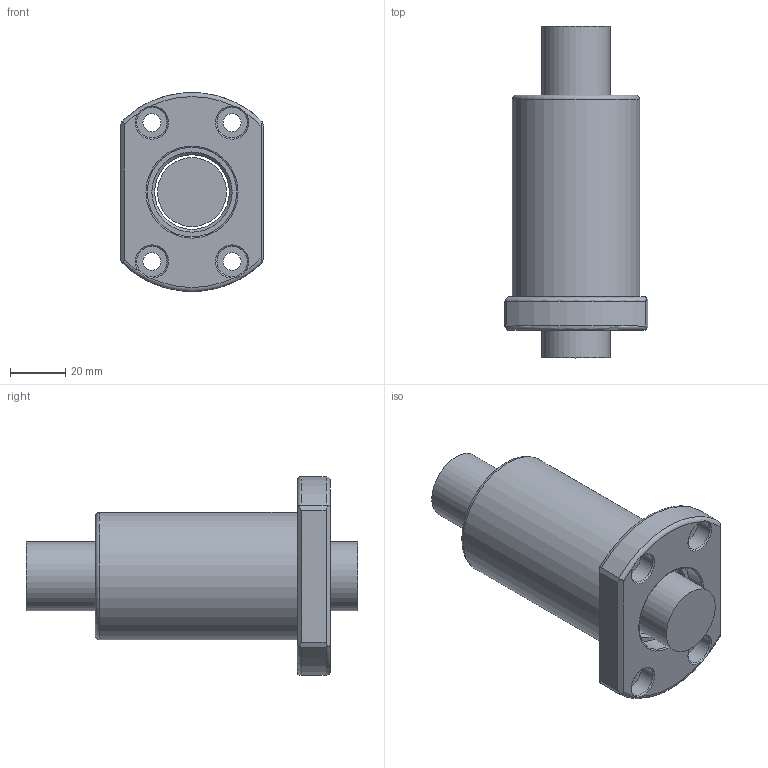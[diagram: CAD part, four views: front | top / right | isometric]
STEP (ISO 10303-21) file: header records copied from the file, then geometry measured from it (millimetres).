
FILE_DESCRIPTION(/* description */ (''),/* implementation_level */ '2;1');
FILE_NAME(/* name */ '2510T4D.prt.step',/* time_stamp */ '2008-12-05T09:33:50+08:00',/* author */ (''),/* organization */ (''),/* preprocessor_version */ 'ST-DEVELOPER v11',/* originating_system */ 'SIEMENS UGS NX 6.0',/* authorisation */ '');
FILE_SCHEMA (('AUTOMOTIVE_DESIGN { 1 0 10303 214 1 1 1 1 }'));
Length unit declared in the file: millimetre
Products named in the file (1): 2510T4D
Bounding box: 52 x 120 x 71.89 mm (x, y, z)
Volume: 164770.7 mm3; surface area: 37077.6 mm2
Topology: 2 solids, 2 shells, 53 faces, 133 edges, 87 vertices
Faces by surface type: plane 21, cylinder 15, cone 10, torus 7
Full cylindrical faces by diameter (mm): 6.5 x4, 11 x4, 24.95 x1, 27 x1, 32.3 x2, 46 x1
Entity records: 1606 total; most frequent: CARTESIAN_POINT 460, DIRECTION 234, ORIENTED_EDGE 190, AXIS2_PLACEMENT_3D 105, EDGE_CURVE 95, EDGE_LOOP 92, VERTEX_POINT 75, FACE_BOUND 74
